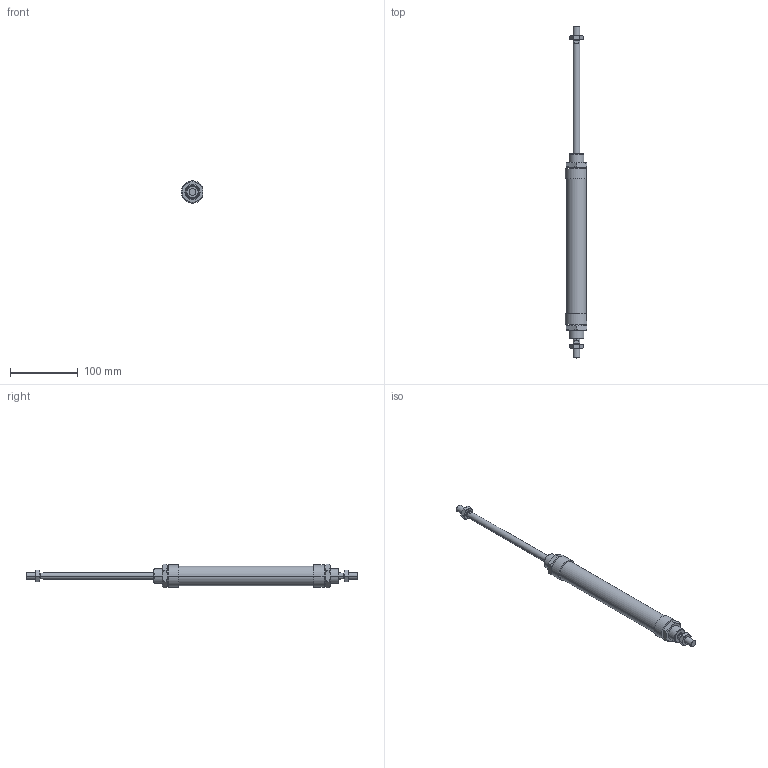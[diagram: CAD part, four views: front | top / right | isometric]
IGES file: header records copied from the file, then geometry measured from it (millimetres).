
Global section: file name: No Iges File Name specified; native system: AutoDesk Inventor R6.0; preprocessor: AutoDesk Inventor Iges Exporter R6.0; author: No Author specified; organization: No Organization specified; date: 20030403.072512; units: millimetre
Bounding box: 31.5 x 489 x 34.64 mm (x, y, z)
Volume: 197263.7 mm3; surface area: 56320.9 mm2
Topology: 6 solids, 6 shells, 184 faces, 396 edges, 232 vertices
Faces by surface type: cone 68, plane 60, bspline 30, cylinder 20, revolution 6
